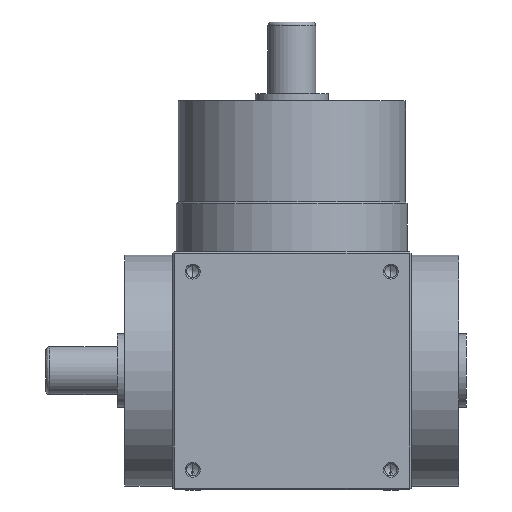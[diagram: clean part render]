
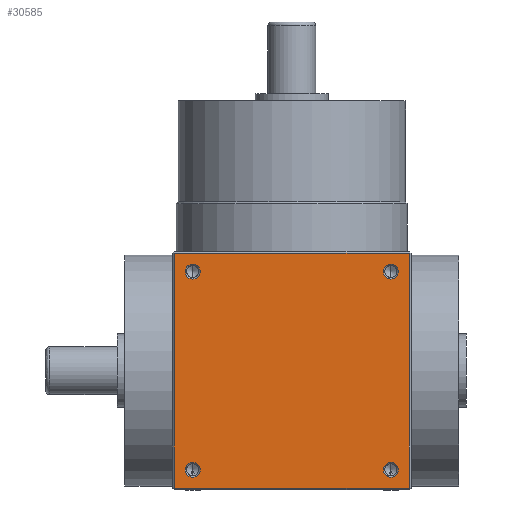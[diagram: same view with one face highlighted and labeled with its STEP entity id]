
A CAD part, front view. The second image highlights one B-rep face of the part: STEP entity #30585.
In plain terms, the highlighted planar face has unit normal (0, -1, 0).
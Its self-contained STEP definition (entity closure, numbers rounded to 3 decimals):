
#143 = AXIS2_PLACEMENT_3D ( 'NONE', #11975, #36392, #15496 ) ;
#727 = LINE ( 'NONE', #34478, #34585 ) ;
#1102 = CARTESIAN_POINT ( 'NONE',  ( -32., -32.5, 65. ) ) ;
#1162 = DIRECTION ( 'NONE',  ( 0., -1., 0. ) ) ;
#1835 = VECTOR ( 'NONE', #11991, 1000. ) ;
#3053 = VECTOR ( 'NONE', #25556, 1000. ) ;
#3334 = VERTEX_POINT ( 'NONE', #5290 ) ;
#3925 = EDGE_CURVE ( 'NONE', #17753, #21422, #12945, .T. ) ;
#4638 = EDGE_CURVE ( 'NONE', #17810, #34349, #13426, .T. ) ;
#4806 = CIRCLE ( 'NONE', #22689, 2.025 ) ;
#4990 = AXIS2_PLACEMENT_3D ( 'NONE', #9140, #33548, #12657 ) ;
#5241 = AXIS2_PLACEMENT_3D ( 'NONE', #9164, #33570, #12678 ) ;
#5290 = CARTESIAN_POINT ( 'NONE',  ( -27., -32.5, 61.525 ) ) ;
#5811 = ORIENTED_EDGE ( 'NONE', *, *, #42274, .F. ) ;
#6566 = DIRECTION ( 'NONE',  ( 1., 0., 0. ) ) ;
#6783 = CIRCLE ( 'NONE', #17480, 2.025 ) ;
#6950 = CARTESIAN_POINT ( 'NONE',  ( 27., -32.5, 5.5 ) ) ;
#7147 = PLANE ( 'NONE',  #21302 ) ;
#8366 = CIRCLE ( 'NONE', #143, 2.025 ) ;
#8469 = CARTESIAN_POINT ( 'NONE',  ( -32.5, -32.5, 0.5 ) ) ;
#8622 = DIRECTION ( 'NONE',  ( 0., 0., -1. ) ) ;
#8847 = FACE_BOUND ( 'NONE', #34813, .T. ) ;
#9140 = CARTESIAN_POINT ( 'NONE',  ( -27., -32.5, 5.5 ) ) ;
#9164 = CARTESIAN_POINT ( 'NONE',  ( -27., -32.5, 59.5 ) ) ;
#9229 = DIRECTION ( 'NONE',  ( 0., -1., 0. ) ) ;
#9687 = EDGE_CURVE ( 'NONE', #21422, #17753, #14027, .T. ) ;
#10244 = ORIENTED_EDGE ( 'NONE', *, *, #42543, .F. ) ;
#10428 = DIRECTION ( 'NONE',  ( 0., 0., -1. ) ) ;
#10472 = CARTESIAN_POINT ( 'NONE',  ( -32.5, -32.5, 65. ) ) ;
#10633 = DIRECTION ( 'NONE',  ( 0., 0., 1. ) ) ;
#11331 = EDGE_LOOP ( 'NONE', ( #31235, #27030 ) ) ;
#11414 = DIRECTION ( 'NONE',  ( 0., -1., 0. ) ) ;
#11975 = CARTESIAN_POINT ( 'NONE',  ( -27., -32.5, 59.5 ) ) ;
#11977 = ORIENTED_EDGE ( 'NONE', *, *, #40163, .F. ) ;
#11991 = DIRECTION ( 'NONE',  ( -1., 0., 0. ) ) ;
#12595 = VERTEX_POINT ( 'NONE', #13565 ) ;
#12657 = DIRECTION ( 'NONE',  ( 0., 0., -1. ) ) ;
#12678 = DIRECTION ( 'NONE',  ( 0., 0., -1. ) ) ;
#12945 = CIRCLE ( 'NONE', #27942, 2.025 ) ;
#12972 = EDGE_LOOP ( 'NONE', ( #23682, #44191 ) ) ;
#13426 = LINE ( 'NONE', #15655, #22667 ) ;
#13497 = CARTESIAN_POINT ( 'NONE',  ( 27., -32.5, 57.475 ) ) ;
#13565 = CARTESIAN_POINT ( 'NONE',  ( 27., -32.5, 61.525 ) ) ;
#14027 = CIRCLE ( 'NONE', #4990, 2.025 ) ;
#15496 = DIRECTION ( 'NONE',  ( 0., 0., -1. ) ) ;
#15655 = CARTESIAN_POINT ( 'NONE',  ( 32., -32.5, 65. ) ) ;
#16795 = CIRCLE ( 'NONE', #23772, 2.025 ) ;
#17480 = AXIS2_PLACEMENT_3D ( 'NONE', #22119, #1162, #25613 ) ;
#17753 = VERTEX_POINT ( 'NONE', #35819 ) ;
#17810 = VERTEX_POINT ( 'NONE', #43273 ) ;
#17881 = ORIENTED_EDGE ( 'NONE', *, *, #21952, .F. ) ;
#18814 = EDGE_CURVE ( 'NONE', #12595, #29592, #4806, .T. ) ;
#19250 = FACE_BOUND ( 'NONE', #11331, .T. ) ;
#19525 = EDGE_CURVE ( 'NONE', #27546, #17810, #727, .T. ) ;
#19761 = DIRECTION ( 'NONE',  ( 0., -1., 0. ) ) ;
#20308 = AXIS2_PLACEMENT_3D ( 'NONE', #6950, #31346, #10428 ) ;
#21302 = AXIS2_PLACEMENT_3D ( 'NONE', #10472, #31542, #10633 ) ;
#21422 = VERTEX_POINT ( 'NONE', #32989 ) ;
#21952 = EDGE_CURVE ( 'NONE', #41288, #3334, #40971, .T. ) ;
#22119 = CARTESIAN_POINT ( 'NONE',  ( 27., -32.5, 5.5 ) ) ;
#22435 = EDGE_LOOP ( 'NONE', ( #36819, #37437, #5811, #31962 ) ) ;
#22667 = VECTOR ( 'NONE', #8622, 1000. ) ;
#22689 = AXIS2_PLACEMENT_3D ( 'NONE', #40667, #19761, #44171 ) ;
#23682 = ORIENTED_EDGE ( 'NONE', *, *, #9687, .F. ) ;
#23772 = AXIS2_PLACEMENT_3D ( 'NONE', #32314, #11414, #35842 ) ;
#24663 = ORIENTED_EDGE ( 'NONE', *, *, #43907, .F. ) ;
#25083 = EDGE_CURVE ( 'NONE', #29592, #12595, #16795, .T. ) ;
#25556 = DIRECTION ( 'NONE',  ( 0., 0., 1. ) ) ;
#25613 = DIRECTION ( 'NONE',  ( 0., 0., -1. ) ) ;
#26860 = CARTESIAN_POINT ( 'NONE',  ( 27., -32.5, 3.475 ) ) ;
#27030 = ORIENTED_EDGE ( 'NONE', *, *, #18814, .F. ) ;
#27546 = VERTEX_POINT ( 'NONE', #28927 ) ;
#27942 = AXIS2_PLACEMENT_3D ( 'NONE', #30122, #9229, #33643 ) ;
#28927 = CARTESIAN_POINT ( 'NONE',  ( -32., -32.5, 64.5 ) ) ;
#29592 = VERTEX_POINT ( 'NONE', #13497 ) ;
#29856 = LINE ( 'NONE', #1102, #3053 ) ;
#30122 = CARTESIAN_POINT ( 'NONE',  ( -27., -32.5, 5.5 ) ) ;
#30585 = ADVANCED_FACE ( 'NONE', ( #8847, #19250, #36710, #44912, #35628 ), #7147, .F. ) ;
#30847 = LINE ( 'NONE', #8469, #1835 ) ;
#31235 = ORIENTED_EDGE ( 'NONE', *, *, #25083, .F. ) ;
#31346 = DIRECTION ( 'NONE',  ( 0., -1., 0. ) ) ;
#31542 = DIRECTION ( 'NONE',  ( 0., 1., 0. ) ) ;
#31962 = ORIENTED_EDGE ( 'NONE', *, *, #4638, .F. ) ;
#32314 = CARTESIAN_POINT ( 'NONE',  ( 27., -32.5, 59.5 ) ) ;
#32989 = CARTESIAN_POINT ( 'NONE',  ( -27., -32.5, 3.475 ) ) ;
#33548 = DIRECTION ( 'NONE',  ( 0., -1., 0. ) ) ;
#33570 = DIRECTION ( 'NONE',  ( 0., -1., 0. ) ) ;
#33643 = DIRECTION ( 'NONE',  ( 0., 0., -1. ) ) ;
#34349 = VERTEX_POINT ( 'NONE', #44193 ) ;
#34478 = CARTESIAN_POINT ( 'NONE',  ( -32.5, -32.5, 64.5 ) ) ;
#34585 = VECTOR ( 'NONE', #6566, 1000. ) ;
#34813 = EDGE_LOOP ( 'NONE', ( #17881, #24663 ) ) ;
#35628 = FACE_OUTER_BOUND ( 'NONE', #22435, .T. ) ;
#35819 = CARTESIAN_POINT ( 'NONE',  ( -27., -32.5, 7.525 ) ) ;
#35842 = DIRECTION ( 'NONE',  ( 0., 0., -1. ) ) ;
#36060 = CARTESIAN_POINT ( 'NONE',  ( -27., -32.5, 57.475 ) ) ;
#36392 = DIRECTION ( 'NONE',  ( 0., -1., 0. ) ) ;
#36710 = FACE_BOUND ( 'NONE', #39737, .T. ) ;
#36819 = ORIENTED_EDGE ( 'NONE', *, *, #19525, .F. ) ;
#37437 = ORIENTED_EDGE ( 'NONE', *, *, #38418, .F. ) ;
#37543 = VERTEX_POINT ( 'NONE', #26860 ) ;
#38418 = EDGE_CURVE ( 'NONE', #41739, #27546, #29856, .T. ) ;
#39737 = EDGE_LOOP ( 'NONE', ( #11977, #10244 ) ) ;
#40163 = EDGE_CURVE ( 'NONE', #37543, #41242, #6783, .T. ) ;
#40178 = CIRCLE ( 'NONE', #20308, 2.025 ) ;
#40667 = CARTESIAN_POINT ( 'NONE',  ( 27., -32.5, 59.5 ) ) ;
#40971 = CIRCLE ( 'NONE', #5241, 2.025 ) ;
#41242 = VERTEX_POINT ( 'NONE', #42493 ) ;
#41288 = VERTEX_POINT ( 'NONE', #36060 ) ;
#41739 = VERTEX_POINT ( 'NONE', #42118 ) ;
#42118 = CARTESIAN_POINT ( 'NONE',  ( -32., -32.5, 0.5 ) ) ;
#42274 = EDGE_CURVE ( 'NONE', #34349, #41739, #30847, .T. ) ;
#42493 = CARTESIAN_POINT ( 'NONE',  ( 27., -32.5, 7.525 ) ) ;
#42543 = EDGE_CURVE ( 'NONE', #41242, #37543, #40178, .T. ) ;
#43273 = CARTESIAN_POINT ( 'NONE',  ( 32., -32.5, 64.5 ) ) ;
#43907 = EDGE_CURVE ( 'NONE', #3334, #41288, #8366, .T. ) ;
#44171 = DIRECTION ( 'NONE',  ( 0., 0., -1. ) ) ;
#44191 = ORIENTED_EDGE ( 'NONE', *, *, #3925, .F. ) ;
#44193 = CARTESIAN_POINT ( 'NONE',  ( 32., -32.5, 0.5 ) ) ;
#44912 = FACE_BOUND ( 'NONE', #12972, .T. ) ;
